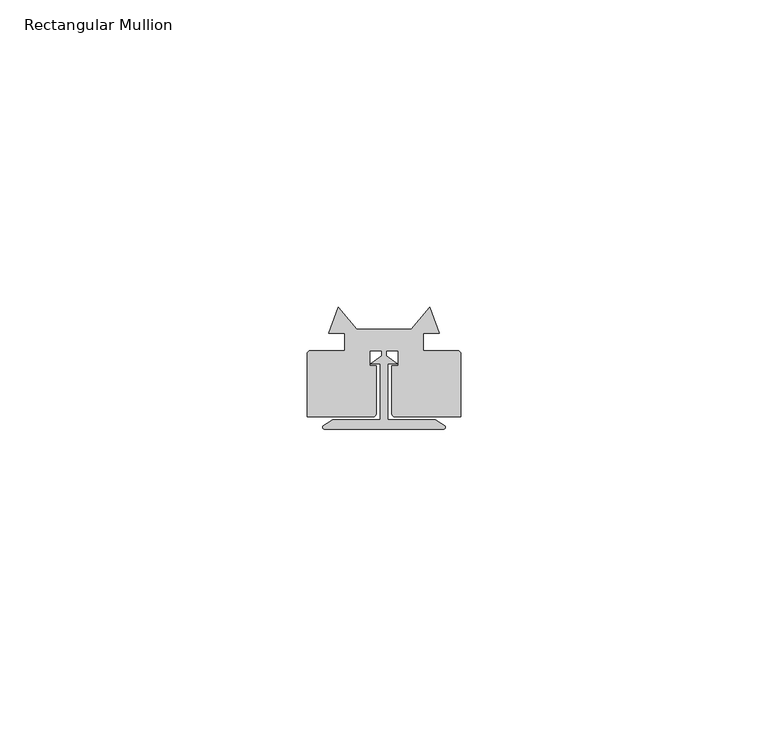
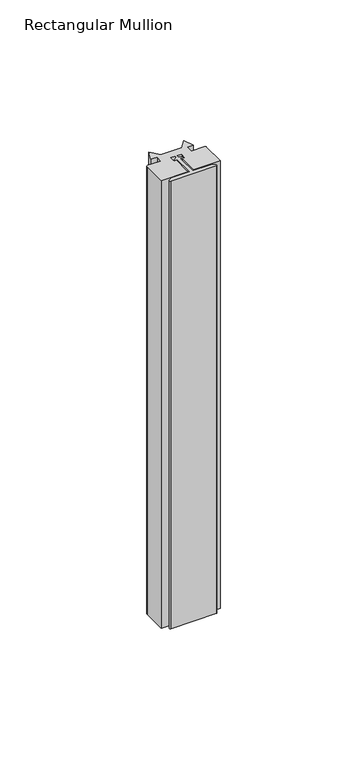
"""IFC4 building model written with IfcOpenShell, lengths in millimetres: member geometry, Rectangular Mullion : QO-V-01_01 Joint."""

from ifc_helpers import new_model, si_unit, point, frame, frame_2d, origin, place, context, project, spatial, polyline, circle_curve, trimmed, segment, composite_curve, outline, extrude, source, transform, mapped, element, save


def rectangular_mullion_3fa9cebb(model_context):
    return source(origin(), model_context, "Body", "SweptSolid", [
        extrude(outline(composite_curve([segment(polyline([(0.6475876, 34.6160805), (0.6475876, 25.5027713), (8.3158634, 25.5027713), (9.8478388, 24.5783623)]), True, "CONTINUOUS"), segment(trimmed(circle_curve(frame_2d((9.6876801, 24.3129396)), 0.31), [point((9.8478388, 24.5783623))], [point((9.6876801, 24.0029396))], False, "CARTESIAN"), True, "CONTINUOUS"), segment(polyline([(9.6876801, 24.0029396), (-9.6923428, 24.0029396)]), True, "CONTINUOUS"), segment(trimmed(circle_curve(frame_2d((-9.6923428, 24.3129396)), 0.31), [point((-9.6923428, 24.0029396))], [point((-9.8525015, 24.5783623))], False, "CARTESIAN"), True, "CONTINUOUS"), segment(polyline([(-9.8525015, 24.5783623), (-8.3205261, 25.5027713), (-0.6524124, 25.5027713), (-0.6524124, 34.6160805), (-2.1674381, 34.6160805), (-0.3546092, 35.9759407), (-0.3546092, 36.7759407), (-2.3561345, 36.7759407), (-2.3561345, 34.317153), (-1.2879019, 34.317153), (-1.2879019, 26.5392087)]), True, "CONTINUOUS"), segment(trimmed(circle_curve(frame_2d((-1.7872786, 26.5150144)), 0.4999625), [point((-1.2879019, 26.5392087))], [point((-1.7872786, 26.0150519))], False, "CARTESIAN"), True, "CONTINUOUS"), segment(polyline([(-1.7872786, 26.0150519), (-12.5010847, 26.0150519), (-12.5010847, 36.190378)]), True, "CONTINUOUS"), segment(trimmed(circle_curve(frame_2d((-11.9010847, 36.190378)), 0.6), [point((-12.5010847, 36.190378))], [point((-11.9010847, 36.790378))], False, "CARTESIAN"), True, "CONTINUOUS"), segment(polyline([(-11.9010847, 36.790378), (-6.362561, 36.790378), (-6.362561, 39.6058207), (-8.961162, 39.6058207), (-7.4224126, 43.8493822), (-4.3991903, 40.3004498), (4.3943655, 40.3004498), (7.4175879, 43.8493822), (8.9563372, 39.6058207), (6.3577362, 39.6058207), (6.3577362, 36.790378), (11.8962599, 36.790378)]), True, "CONTINUOUS"), segment(trimmed(circle_curve(frame_2d((11.8962599, 36.190378)), 0.6), [point((11.8962599, 36.790378))], [point((12.4962599, 36.190378))], False, "CARTESIAN"), True, "CONTINUOUS"), segment(polyline([(12.4962599, 36.190378), (12.4962599, 26.0150519), (1.7824538, 26.0150519)]), True, "CONTINUOUS"), segment(trimmed(circle_curve(frame_2d((1.7824538, 26.5150144)), 0.4999625), [point((1.7824538, 26.0150519))], [point((1.2830771, 26.5392087))], False, "CARTESIAN"), True, "CONTINUOUS"), segment(polyline([(1.2830771, 26.5392087), (1.2830771, 34.317153), (2.3513097, 34.317153), (2.3513097, 36.7759407), (0.3497844, 36.7759407), (0.3497844, 35.9759407), (2.1626133, 34.6160805), (0.6475876, 34.6160805)]), True, "CONTINUOUS")], self_intersect=False)), frame((0.0, 0.0, -200.0), z_axis=(0.0, 0.0, 1.0), x_axis=(1.0, 0.0, 0.0)), (0.0, 0.0, 1.0), 200.0),
    ])


if __name__ == "__main__":
    model = new_model("IFC4")
    model_context = context("Model", 3, world=origin())
    ifc_project = project(units=[si_unit("LENGTHUNIT", "METRE", prefix="MILLI")], contexts=[model_context])
    site = spatial("IfcSite", under=ifc_project)
    building = spatial("IfcBuilding", under=site)
    placement = place(None, origin())
    rectangular_mullion_shape = rectangular_mullion_3fa9cebb(model_context)
    element("IfcMember", 1, ObjectType="Rectangular Mullion : QO-V-01_01 Joint", at=placement, inside=building, context=model_context, shape_type="MappedRepresentation", body=[
        mapped(rectangular_mullion_shape, transform((0.0, 0.0, 0.0), x_axis=(1.0, 0.0, 0.0), y_axis=(0.0, 1.0, 0.0), z_axis=(0.0, 0.0, 1.0))),
    ])
    save(model, "model.ifc")
